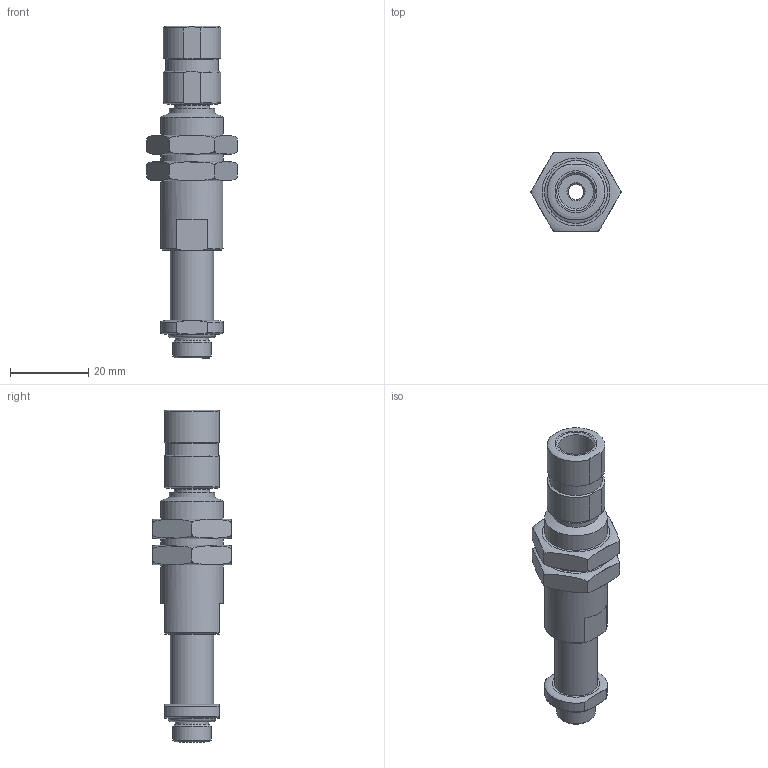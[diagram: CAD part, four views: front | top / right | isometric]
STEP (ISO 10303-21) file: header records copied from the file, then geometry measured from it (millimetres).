
FILE_DESCRIPTION( ( 'Unknown' ), '1' );
FILE_NAME( 'C:/Documents and Settings/Owner/官帕 拳搁/诀公楷遏_(Level Spring Stroke)/L1820T.stp', 'Unknown', ( 'Unknown' ), ( 'Unknown' ), 'PSStep 10.0', 'Unknown', ' ' );
FILE_SCHEMA( ( 'AUTOMOTIVE_DESIGN { 1 0 10303 214 1 1 1 1 }' ) );
Length unit declared in the file: millimetre
Products named in the file (1): 1
Bounding box: 23.09 x 20 x 84.6 mm (x, y, z)
Surface area: 6374 mm2 (no closed solid volume)
Topology: 0 solids, 71 shells, 71 faces, 286 edges, 257 vertices
Faces by surface type: plane 34, cylinder 17, cone 10, revolution 8, torus 2
Full cylindrical faces by diameter (mm): 4 x1, 8.5 x1, 8.8 x1, 9 x1, 9.8 x1, 11 x1, 11.5 x1, 13.5 x1, 16 x3
Entity records: 5116 total; most frequent: CARTESIAN_POINT 2508, DIRECTION 412, ORIENTED_EDGE 250, EDGE_CURVE 250, VERTEX_POINT 250, AXIS2_PLACEMENT_3D 170, FACE_BOUND 112, EDGE_LOOP 112
